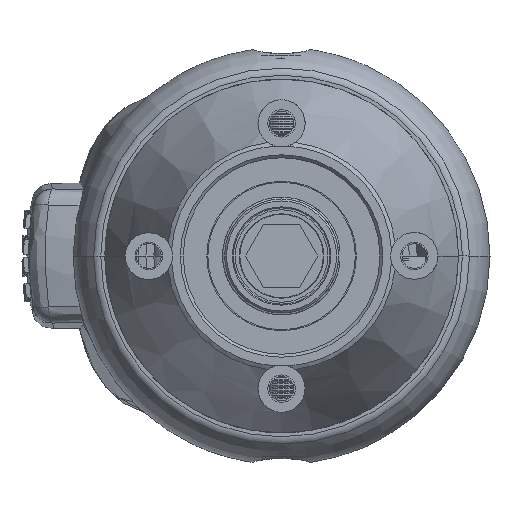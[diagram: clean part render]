
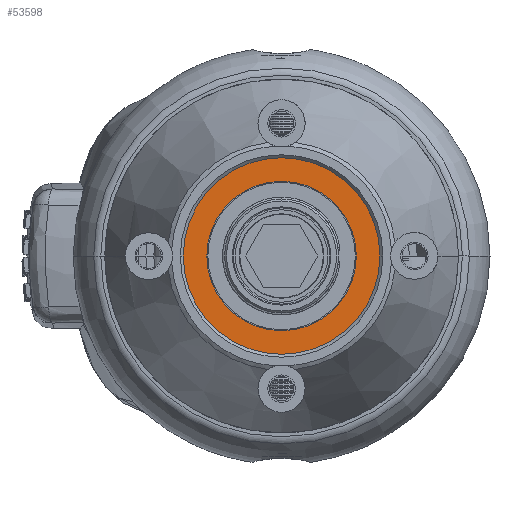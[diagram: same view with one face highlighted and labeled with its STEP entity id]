
A CAD part, left-side view. The second image highlights one B-rep face of the part: STEP entity #53598.
In plain terms, the highlighted planar face has unit normal (-1, 0, 0) as drawn and (0, 0, 1) by its records, which use the part's own axes.
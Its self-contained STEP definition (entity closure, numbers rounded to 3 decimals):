
#52685=CARTESIAN_POINT('',(0.,0.,14.));
#52686=DIRECTION('',(0.,0.,1.));
#52687=DIRECTION('',(1.,0.,0.));
#52688=AXIS2_PLACEMENT_3D('',#52685,#52686,#52687);
#52690=CARTESIAN_POINT('',(0.,0.,14.));
#52691=DIRECTION('',(0.,0.,1.));
#52692=DIRECTION('',(-1.,0.,0.));
#52693=AXIS2_PLACEMENT_3D('',#52690,#52691,#52692);
#52695=CARTESIAN_POINT('',(0.,0.,14.));
#52696=DIRECTION('',(0.,0.,-1.));
#52697=DIRECTION('',(-1.,0.,0.));
#52698=AXIS2_PLACEMENT_3D('',#52695,#52696,#52697);
#52700=CARTESIAN_POINT('',(0.,0.,14.));
#52701=DIRECTION('',(0.,0.,-1.));
#52702=DIRECTION('',(1.,0.,0.));
#52703=AXIS2_PLACEMENT_3D('',#52700,#52701,#52702);
#53430=CARTESIAN_POINT('',(7.6,0.,14.));
#53432=VERTEX_POINT('',#53430);
#53434=CARTESIAN_POINT('',(-7.6,0.,14.));
#53436=VERTEX_POINT('',#53434);
#53486=CARTESIAN_POINT('',(10.,0.,14.));
#53488=VERTEX_POINT('',#53486);
#53490=CARTESIAN_POINT('',(-10.,0.,14.));
#53492=VERTEX_POINT('',#53490);
#53582=CARTESIAN_POINT('',(0.,0.,14.));
#53583=DIRECTION('',(0.,0.,1.));
#53584=DIRECTION('',(1.,0.,0.));
#53585=AXIS2_PLACEMENT_3D('',#53582,#53583,#53584);
#53586=PLANE('',#53585);
#53588=ORIENTED_EDGE('',*,*,#53587,.F.);
#53590=ORIENTED_EDGE('',*,*,#53589,.F.);
#53591=EDGE_LOOP('',(#53588,#53590));
#53592=FACE_OUTER_BOUND('',#53591,.F.);
#53593=ORIENTED_EDGE('',*,*,#53571,.F.);
#53595=ORIENTED_EDGE('',*,*,#53594,.F.);
#53596=EDGE_LOOP('',(#53593,#53595));
#53597=FACE_BOUND('',#53596,.F.);
#53598=ADVANCED_FACE('',(#53592,#53597),#53586,.T.);
#52689=CIRCLE('',#52688,10.);
#52694=CIRCLE('',#52693,10.);
#52699=CIRCLE('',#52698,7.6);
#52704=CIRCLE('',#52703,7.6);
#53571=EDGE_CURVE('',#53436,#53432,#52699,.T.);
#53587=EDGE_CURVE('',#53488,#53492,#52689,.T.);
#53589=EDGE_CURVE('',#53492,#53488,#52694,.T.);
#53594=EDGE_CURVE('',#53432,#53436,#52704,.T.);
